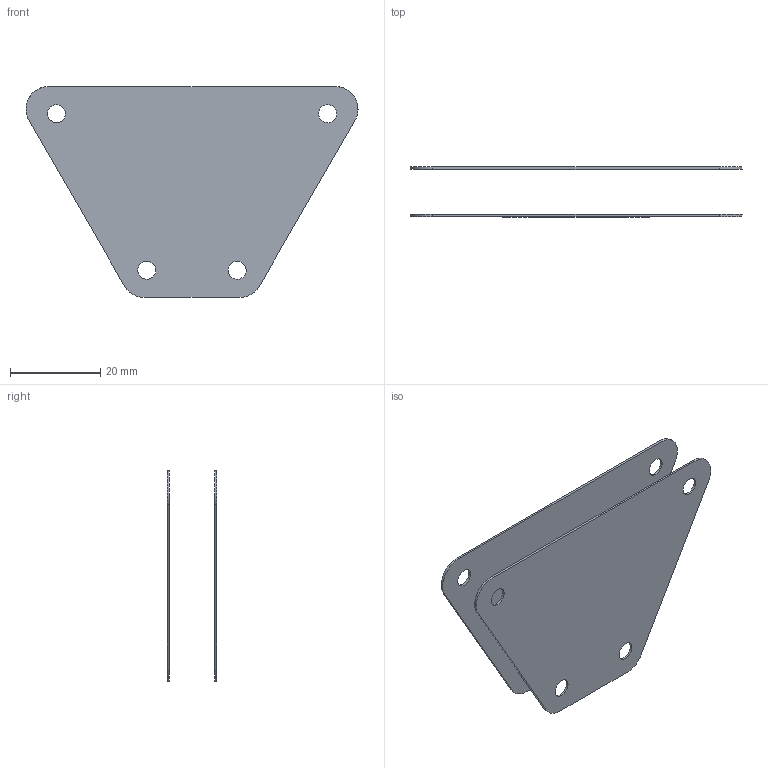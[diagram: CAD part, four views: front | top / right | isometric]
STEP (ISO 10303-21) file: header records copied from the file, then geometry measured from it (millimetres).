
FILE_DESCRIPTION(('CATIA V5 STEP Exchange'),'2;1');
FILE_NAME('E:\Etudes_avions\Sites_web\Apprendre_la_CAO\Sujets\Lampe bureau\Platine milieu.stp','2017-08-03T16:23:41+00:00',('none'),('none'),'CATIA Version 5 Release 21 GA (IN-10)','CATIA V5 STEP AP203','none');
FILE_SCHEMA(('CONFIG_CONTROL_DESIGN'));
Length unit declared in the file: millimetre
Products named in the file (1): Platine milieu
Bounding box: 73.46 x 11 x 46.64 mm (x, y, z)
Volume: 2424.7 mm3; surface area: 9949.8 mm2
Topology: 2 solids, 2 shells, 38 faces, 102 edges, 68 vertices
Faces by surface type: cylinder 24, plane 14
Entity records: 1316 total; most frequent: CARTESIAN_POINT 343, ORIENTED_EDGE 204, DIRECTION 150, EDGE_CURVE 102, VERTEX_POINT 68, AXIS2_PLACEMENT_3D 65, EDGE_LOOP 54, VECTOR 50
